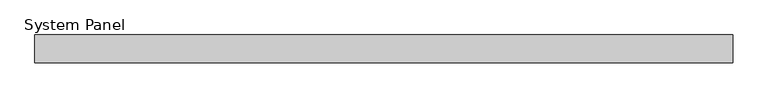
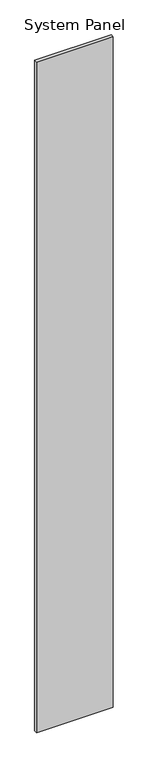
"""IFC4 building model written with IfcOpenShell, lengths in millimetres: plate geometry, System Panel : MetecnoSpan_40mm_Vertical_Plain_Surfmist."""

from ifc_helpers import new_model, si_unit, origin, origin_with_axes, place, context, project, spatial, polyline, outline, extrude, source, transform, mapped, element, save


def system_panel_feab0dc7(model_context):
    return source(origin(), model_context, "Body", "SweptSolid", [
        extrude(outline(polyline([(500.0, -40.0), (-500.0, -40.0), (-500.0, 0.0), (500.0, 0.0), (500.0, -40.0)])), origin_with_axes(), (0.0, 0.0, 1.0), 9240.3821682),
    ])


if __name__ == "__main__":
    model = new_model("IFC4")
    model_context = context("Model", 3, world=origin())
    ifc_project = project(units=[si_unit("LENGTHUNIT", "METRE", prefix="MILLI")], contexts=[model_context])
    site = spatial("IfcSite", under=ifc_project)
    building = spatial("IfcBuilding", under=site)
    placement = place(None, origin())
    system_panel_shape = system_panel_feab0dc7(model_context)
    element("IfcPlate", 1, ObjectType="System Panel : MetecnoSpan_40mm_Vertical_Plain_Surfmist", at=placement, inside=building, context=model_context, shape_type="MappedRepresentation", body=[
        mapped(system_panel_shape, transform((0.0, 0.0, 0.0), x_axis=(1.0, 0.0, 0.0), y_axis=(0.0, 1.0, 0.0), z_axis=(0.0, 0.0, 1.0))),
    ])
    save(model, "model.ifc")
